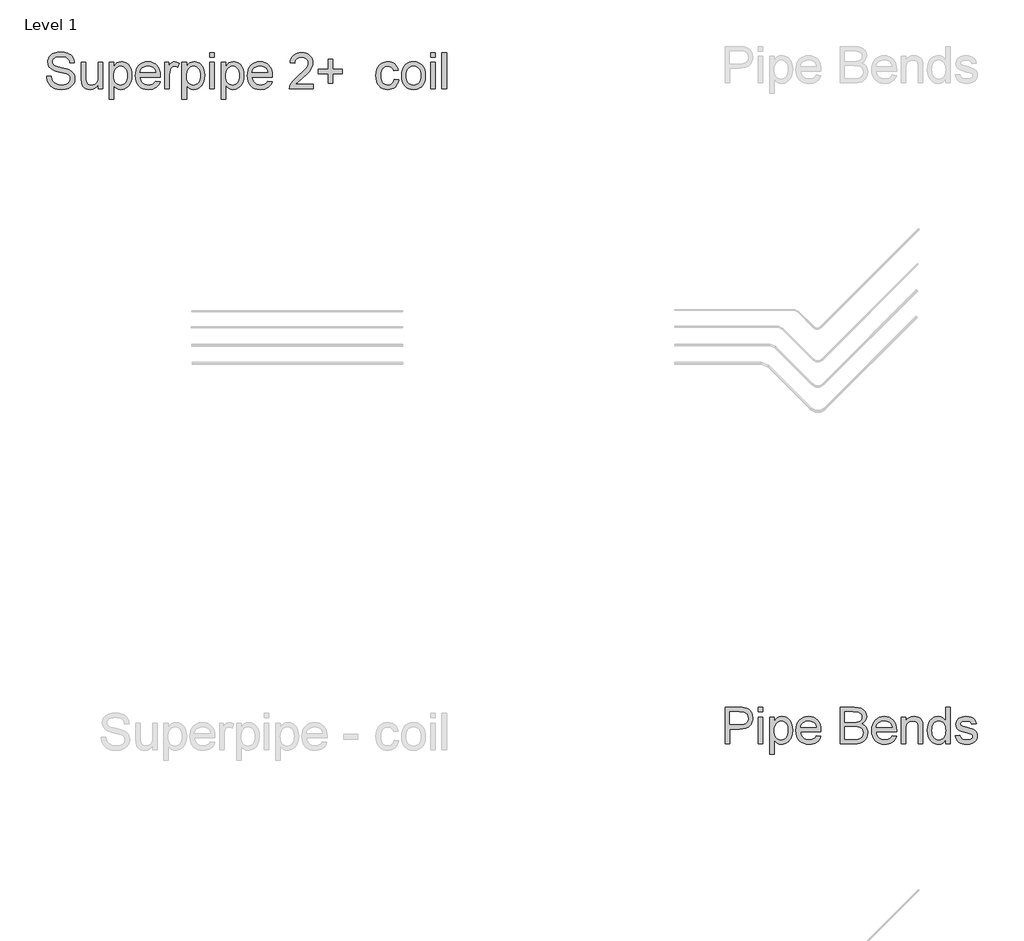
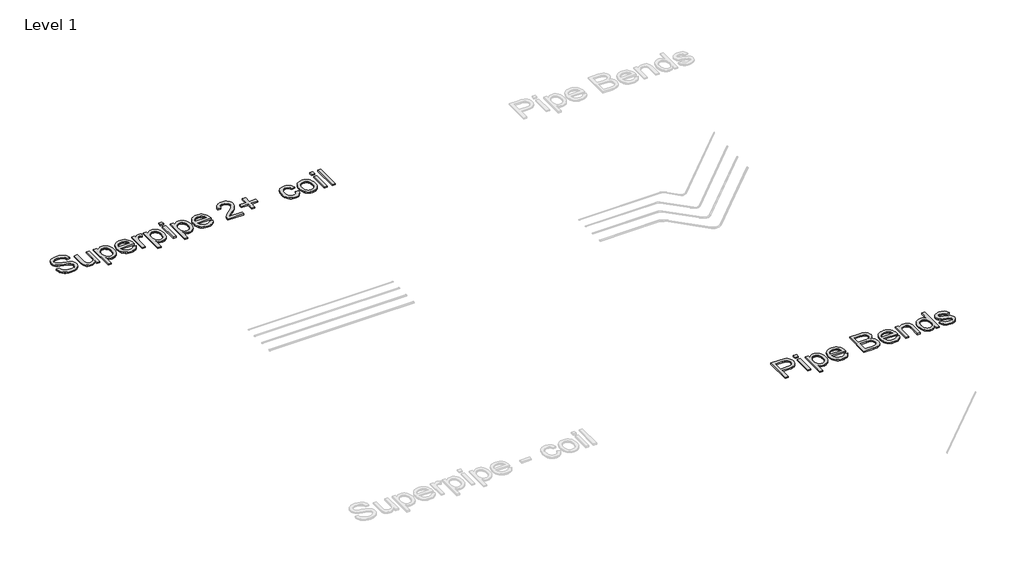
# One storey, part 10 of 57: 2 proxies.
"""IFC4 building model written with IfcOpenShell, lengths in millimetres."""

import ifcopenshell
import ifcopenshell.guid

model = None  # the IFC model being written
_history = None  # IfcOwnerHistory: only IFC2X3 demands one
_inside = {}  # id of a spatial element -> (the spatial element, [elements in it])
_under = {}  # id of a project, library or spatial element -> (it, [spatial elements below it])
_declared = {}  # id of a project -> (the project, [libraries it declares])
_typed = {}  # id of a type object -> (the type object, [elements of that type])
_made_of = {}  # id of a material, layer set ... -> (it, [elements and type objects made of it])


def new_model(schema):
    """Start an empty IFC model of exactly this schema.

    Asked for "IFC4X3", IfcOpenShell would pick the latest addendum, in which some entities
    have other attributes; the version numbers below select the first issue.
    IFC2X3 requires an IfcOwnerHistory on every rooted entity: one is made here for all.
    """
    global model, _history
    if schema == "IFC4X3":
        model = ifcopenshell.file(schema_version=(4, 3, 0, 0))
    else:
        model = ifcopenshell.file(schema=schema)
    _inside.clear()
    _under.clear()
    _declared.clear()
    _typed.clear()
    _made_of.clear()
    _history = None
    if model.schema == "IFC2X3":
        org = make("IfcOrganization", Name="unknown")
        user = make(
            "IfcPersonAndOrganization",
            ThePerson=make("IfcPerson", FamilyName="unknown"),
            TheOrganization=org,
        )
        app = make(
            "IfcApplication",
            ApplicationDeveloper=org,
            Version="unknown",
            ApplicationFullName="unknown",
            ApplicationIdentifier="unknown",
        )
        _history = make(
            "IfcOwnerHistory",
            OwningUser=user,
            OwningApplication=app,
            ChangeAction="ADDED",
            CreationDate=0,
        )
    return model


def make(cls, **values):
    """One entity of the class cls with the attributes given. An attribute that is None is left unset."""
    return model.create_entity(
        cls, **{name: value for name, value in values.items() if value is not None}
    )


def rooted(cls, **values):
    """An entity with a GlobalId (a new one), such as an element, a storey or a relation."""
    return make(cls, GlobalId=ifcopenshell.guid.new(), OwnerHistory=_history, **values)


def si_unit(unit_type, name, prefix=None):
    """IfcSIUnit, for example si_unit("LENGTHUNIT", "METRE", prefix="MILLI")."""
    return make("IfcSIUnit", UnitType=unit_type, Prefix=prefix, Name=name)


def assignment(units):
    """IfcUnitAssignment: the units of a project."""
    return None if units is None else make("IfcUnitAssignment", Units=units)


def point(xyz):
    """IfcCartesianPoint."""
    return None if xyz is None else make("IfcCartesianPoint", Coordinates=xyz)


def direction(xyz):
    """IfcDirection."""
    return None if xyz is None else make("IfcDirection", DirectionRatios=xyz)


def frame(location, z_axis=None, x_axis=None):
    """IfcAxis2Placement3D, a coordinate frame: its origin and axes. An axis left out is left unset."""
    return make(
        "IfcAxis2Placement3D",
        Location=point(location),
        Axis=direction(z_axis),
        RefDirection=direction(x_axis),
    )


def origin():
    """The frame at (0, 0, 0) with its axes left unset."""
    return frame((0.0, 0.0, 0.0))


def place(relative_to, where):
    """IfcLocalPlacement: puts the frame where relative to a parent placement (None: the world)."""
    return make(
        "IfcLocalPlacement", PlacementRelTo=relative_to, RelativePlacement=where
    )


def context(
    kind, dimensions, precision=None, world=None, true_north=None, identifier=None
):
    """IfcGeometricRepresentationContext, for example the 3D "Model" context."""
    return make(
        "IfcGeometricRepresentationContext",
        ContextIdentifier=identifier,
        ContextType=kind,
        CoordinateSpaceDimension=dimensions,
        Precision=precision,
        WorldCoordinateSystem=world,
        TrueNorth=true_north,
    )


def project(units=None, contexts=None):
    """IfcProject with its units and contexts."""
    return rooted(
        "IfcProject",
        Name="project",
        RepresentationContexts=contexts,
        UnitsInContext=assignment(units),
    )


def spatial(cls, under=None, at=None, **own):
    """A site, building, storey or space (cls), placed at a placement, below another one or the project."""
    s = rooted(cls, ObjectPlacement=at, **own)
    if under is not None:
        _under.setdefault(under.id(), (under, []))[1].append(s)
    return s


def polyline(points):
    """IfcPolyline through the points."""
    return make("IfcPolyline", Points=[point(p) for p in points])


def outline(outer, holes=None, kind="AREA"):
    """IfcArbitraryClosedProfileDef: a profile drawn as a closed curve; with holes, ...WithVoids."""
    if holes is None:
        return make("IfcArbitraryClosedProfileDef", ProfileType=kind, OuterCurve=outer)
    return make(
        "IfcArbitraryProfileDefWithVoids",
        ProfileType=kind,
        OuterCurve=outer,
        InnerCurves=holes,
    )


def extrude(swept, where, along, depth):
    """IfcExtrudedAreaSolid: the profile swept, set in the frame where, extruded along a direction by depth."""
    return make(
        "IfcExtrudedAreaSolid",
        SweptArea=swept,
        Position=where,
        ExtrudedDirection=direction(along),
        Depth=depth,
    )


def shape(context_of_items, identifier, shape_type, items):
    """IfcShapeRepresentation: the items that make up one representation, for example the "Body"."""
    return make(
        "IfcShapeRepresentation",
        ContextOfItems=context_of_items,
        RepresentationIdentifier=identifier,
        RepresentationType=shape_type,
        Items=items,
    )


def made_of(thing, what):
    """Note that an element or type object is made of a material, layer set ...; save() writes the relation."""
    if what is not None:
        _made_of.setdefault(what.id(), (what, []))[1].append(thing)
    return thing


def element(
    cls,
    number,
    at=None,
    inside=None,
    cuts=None,
    type_object=None,
    material=None,
    context=None,
    identifier="Body",
    shape_type=None,
    held_by="IfcProductDefinitionShape",
    body=None,
    shapes=None,
    **own,
):
    """One element of the class cls, such as IfcWall. Its Tag is "e" and its number.

    at: its placement. inside: the storey or other place that contains it. cuts: it is an
    opening in that element (IfcRelVoidsElement). A single representation is given by context,
    identifier, shape_type and body (its items); several are given by shapes. held_by: the class
    of the entity that holds the representations. save() writes the other relations.
    """
    e = rooted(cls, Tag="e%d" % number, ObjectPlacement=at, **own)
    if body is not None:
        shapes = [shape(context, identifier, shape_type, body)]
    if shapes is not None:
        e.Representation = make(held_by, Representations=shapes)
    if inside is not None:
        _inside.setdefault(inside.id(), (inside, []))[1].append(e)
    if cuts is not None:
        rooted(
            "IfcRelVoidsElement", RelatingBuildingElement=cuts, RelatedOpeningElement=e
        )
    if type_object is not None:
        _typed.setdefault(type_object.id(), (type_object, []))[1].append(e)
    return made_of(e, material)


def aggregate(whole, parts):
    """IfcRelAggregates: a whole, such as a stair, and the parts it consists of."""
    return rooted("IfcRelAggregates", RelatingObject=whole, RelatedObjects=parts)


def save(model, path):
    """Write the relations noted so far, then the file.

    IfcRelAggregates (storeys below a building ...), IfcRelContainedInSpatialStructure (elements
    in a storey), IfcRelDefinesByType, IfcRelAssociatesMaterial and IfcRelDeclares: one each for
    every whole, place, type object, material and project.
    """
    for whole, parts in _under.values():
        aggregate(whole, parts)
    for where, things in _inside.values():
        rooted(
            "IfcRelContainedInSpatialStructure",
            RelatedElements=things,
            RelatingStructure=where,
        )
    for kind, things in _typed.values():
        rooted("IfcRelDefinesByType", RelatedObjects=things, RelatingType=kind)
    for what, things in _made_of.values():
        rooted("IfcRelAssociatesMaterial", RelatedObjects=things, RelatingMaterial=what)
    for by, libraries in _declared.values():
        rooted("IfcRelDeclares", RelatingContext=by, RelatedDefinitions=libraries)
    model.write(path)


model = new_model("IFC4")

# Units and contexts
model_context = context("Model", 3, world=origin())
ifc_project = project(units=[si_unit("LENGTHUNIT", "METRE", prefix="MILLI")], contexts=[model_context])

# Site, building, storey
site = spatial("IfcSite", under=ifc_project)
building = spatial("IfcBuilding", under=site)
storey = spatial("IfcBuildingStorey", under=building, Name="Level 1", Elevation=27.3876384)

# Proxies
placement = place(None, origin())
element("IfcBuildingElementProxy", 1, Name="600mm Arial", ObjectType="600mm Arial", at=placement, inside=storey, context=model_context, shape_type="SweptSolid", body=[
    extrude(outline(polyline([(-16126.3023056, 25980.7797217), (-16050.9600729, 25980.7797217), (-16042.3148461, 25938.969933), (-16026.6798613, 25905.3639127), (-16002.289285, 25878.6924681), (-15967.3772836, 25857.6864061), (-15924.7029722, 25844.0563782), (-15877.0254656, 25839.5130356), (-15835.05013, 25842.9527322), (-15798.2987187, 25853.2718222), (-15768.5186711, 25869.6057828), (-15747.4574269, 25891.0900913), (-15734.931045, 25915.7565791), (-15730.7555843, 25941.6370774), (-15733.8825813, 25966.8553882), (-15743.2635722, 25988.6523964), (-15762.3198595, 26007.2488313), (-15794.4727459, 26022.865422), (-15904.1751569, 26051.633794), (-15976.1880574, 26070.6716873), (-16022.2652773, 26088.7898755), (-16059.7708467, 26114.136945), (-16086.3503209, 26144.8550916), (-16102.1876408, 26180.2821277), (-16107.4667474, 26219.7558658), (-16105.8342711, 26242.192069), (-16100.936842, 26263.8833111), (-16092.7744602, 26284.8295922), (-16081.3471257, 26305.0309123), (-16066.7835973, 26323.6641353), (-16049.2126335, 26339.9061254), (-16028.6342344, 26353.7568825), (-16005.0483999, 26365.2164067), (-15952.0366044, 26380.6122682), (-15893.3594262, 26385.744222), (-15829.7894174, 26380.3731449), (-15774.1656598, 26364.2599135), (-15749.8302658, 26352.2577634), (-15728.474716, 26337.7356216), (-15710.0990103, 26320.6934882), (-15694.7031488, 26301.1313631), (-15682.4066931, 26279.6194635), (-15673.3292049, 26256.7280063), (-15667.4706841, 26232.4569917), (-15664.8311308, 26206.8064196), (-15740.1733634, 26206.8064196), (-15745.2133468, 26230.847508), (-15754.0057264, 26251.7615994), (-15766.5505025, 26269.5486938), (-15782.8476749, 26284.2087914), (-15803.2007462, 26295.6683155), (-15827.9132193, 26303.8536899), (-15856.9850939, 26308.7649145), (-15890.4163702, 26310.4019894), (-15924.9145043, 26308.7833086), (-15954.3910492, 26303.9272663), (-15978.8460048, 26295.8338624), (-15998.2793712, 26284.5030969), (-16013.0866215, 26270.8822661), (-16023.6632289, 26255.9186659), (-16030.0091933, 26239.6122965), (-16032.1245148, 26221.9631578), (-16030.6253957, 26206.7788284), (-16026.1280383, 26193.0108447), (-16018.6324426, 26180.6592068), (-16008.1386087, 26169.7239145), (-15991.6207071, 26159.3680363), (-15965.6114501, 26148.9017935), (-15885.1188695, 26127.6382142), (-15802.051115, 26107.4414927), (-15751.7984345, 26089.8199451), (-15708.8482115, 26062.4863129), (-15692.242938, 26046.4190667), (-15678.884223, 26028.7515339), (-15668.6157168, 26009.5756849), (-15661.2810696, 25988.9834902), (-15655.4133517, 25943.5500638), (-15657.1010104, 25919.9826235), (-15662.1639863, 25897.1049619), (-15670.6022796, 25874.9170791), (-15682.4158902, 25853.418975), (-15697.3978844, 25833.4429827), (-15715.3413287, 25815.8214351), (-15736.2462231, 25800.5543323), (-15760.1125676, 25787.6416743), (-15786.2459848, 25777.3731681), (-15813.9520976, 25770.0385208), (-15874.0824097, 25764.170803), (-15912.6226472, 25765.7526955), (-15947.897932, 25770.4983733), (-15979.9082641, 25778.4078362), (-16008.6536435, 25789.4810842), (-16034.3088141, 25803.7365115), (-16057.04852, 25821.1925122), (-16076.872761, 25841.8490863), (-16093.7815372, 25865.7062336), (-16107.4023681, 25891.9914022), (-16117.3627731, 25919.9320397), (-16123.6627522, 25949.5281462), (-16126.3023056, 25980.7797217)])), frame((0.0, 0.0, 27.3876384), z_axis=(0.0, 0.0, 1.0), x_axis=(1.0, 0.0, 0.0)), (0.0, 0.0, 1.0), 30.0),
    extrude(outline(polyline([(-15269.2844096, 25773.588582), (-15269.2844096, 25849.6665786), (-15296.5444654, 25812.2621768), (-15328.2926816, 25785.5447469), (-15364.5290581, 25769.5142889), (-15405.253595, 25764.170803), (-15441.949824, 25767.9231993), (-15476.1076673, 25779.1803884), (-15504.7656747, 25796.1029601), (-15524.9623962, 25816.8515047), (-15538.555636, 25842.0514213), (-15547.4031979, 25872.3281096), (-15551.8177819, 25942.3728414), (-15551.8177819, 26216.2241986), (-15476.4755493, 26216.2241986), (-15476.4755493, 25977.8366658), (-15475.3351151, 25930.1591592), (-15471.9138125, 25901.0229052), (-15460.932535, 25875.3999242), (-15442.1153709, 25855.9205726), (-15416.7131192, 25843.6149198), (-15385.9765785, 25839.5130356), (-15353.4742042, 25843.7068903), (-15323.0687573, 25856.2884546), (-15297.9975993, 25876.0989), (-15281.4980918, 25901.9793984), (-15272.3378302, 25937.4248286), (-15269.2844096, 25985.9300697), (-15269.2844096, 26216.2241986), (-15193.942177, 26216.2241986), (-15193.942177, 25773.588582), (-15269.2844096, 25773.588582)])), frame((0.0, 0.0, 27.3876384), z_axis=(0.0, 0.0, 1.0), x_axis=(1.0, 0.0, 0.0)), (0.0, 0.0, 1.0), 30.0),
    extrude(outline(polyline([(-15090.3466071, 25604.0685587), (-15090.3466071, 26216.2241986), (-15015.0043745, 26216.2241986), (-15015.0043745, 26142.353494), (-14990.4298572, 26178.7922056), (-14962.912284, 26204.8198568), (-14930.832974, 26220.4364475), (-14892.5732465, 26225.6419777), (-14866.297275, 26223.8209618), (-14841.6215902, 26218.3579142), (-14818.5461921, 26209.2528348), (-14797.0710806, 26196.5057237), (-14777.6653053, 26180.4476746), (-14760.7979159, 26161.4097814), (-14746.4689121, 26139.3920439), (-14734.6782942, 26114.3944624), (-14718.8961566, 26058.8810693), (-14713.6354441, 25998.2909047), (-14719.5767383, 25933.8563732), (-14727.0033561, 25904.1912889), (-14737.400621, 25876.2276587), (-14750.6259787, 25850.6966482), (-14766.536875, 25828.3294229), (-14785.1333098, 25809.1259828), (-14806.4152833, 25793.0863278), (-14829.3389301, 25780.4357857), (-14852.8603852, 25771.3996842), (-14876.9796485, 25765.9780233), (-14901.69672, 25764.170803), (-14936.3328099, 25769.0084512), (-14967.2532916, 25783.5213959), (-14993.7224011, 25805.4287687), (-15015.0043745, 25832.4497013), (-15015.0043745, 25604.0685587), (-15090.3466071, 25604.0685587)]), holes=[polyline([(-15015.0043745, 25991.3747232), (-15012.967228, 25955.0647703), (-15006.8557883, 25923.8315889), (-14996.6700556, 25897.675179), (-14982.4100298, 25876.5955407), (-14965.2437362, 25860.3719447), (-14946.3392001, 25848.7836619), (-14925.6964217, 25841.8306922), (-14903.3154008, 25839.5130356), (-14880.6124832, 25841.9134656), (-14859.5926257, 25849.1147557), (-14840.2558283, 25861.1169057), (-14822.602091, 25877.9199159), (-14807.8914098, 25899.7629093), (-14797.3837803, 25926.8850094), (-14791.0792026, 25959.2862162), (-14788.9776767, 25996.9665295), (-14791.0286188, 26032.9637827), (-14797.1814452, 26064.1417818), (-14807.4361558, 26090.5005268), (-14821.7927507, 26112.0400176), (-14839.000431, 26128.7786484), (-14857.808398, 26140.7348132), (-14878.2166517, 26147.9085121), (-14900.225192, 26150.2997451), (-14922.1647545, 26147.7567608), (-14942.807533, 26140.1278079), (-14962.1535274, 26127.4128865), (-14980.2027378, 26109.6119964), (-14995.4284539, 26086.9642611), (-15006.3039653, 26059.7088038), (-15012.8292722, 26027.8456245), (-15015.0043745, 25991.3747232)])]), frame((0.0, 0.0, 27.3876384), z_axis=(0.0, 0.0, 1.0), x_axis=(1.0, 0.0, 0.0)), (0.0, 0.0, 1.0), 30.0),
    extrude(outline(polyline([(-14318.9716397, 25905.4374891), (-14245.100935, 25896.01971), (-14256.4271019, 25866.4328006), (-14271.7171974, 25840.3591642), (-14290.9712213, 25817.7988008), (-14314.1891737, 25798.7517105), (-14341.1319313, 25783.6225635), (-14371.5603709, 25772.8160299), (-14405.4744923, 25766.3321097), (-14442.8742956, 25764.170803), (-14489.6229002, 25767.9002067), (-14531.2763391, 25779.0884179), (-14567.8346123, 25797.7354365), (-14599.29772, 25823.8412626), (-14624.5988042, 25856.6793292), (-14642.6710072, 25895.5230693), (-14653.514329, 25940.3724831), (-14657.1287696, 25991.2275704), (-14653.4775408, 26043.8071046), (-14642.5238544, 26090.1510389), (-14624.2677104, 26130.2593734), (-14598.7091088, 26164.1321081), (-14567.3287746, 26191.0426761), (-14531.6074329, 26210.2645103), (-14491.5450836, 26221.7976109), (-14447.1417268, 26225.6419777), (-14404.1685112, 26221.8068079), (-14365.3063769, 26210.3012985), (-14330.555324, 26191.1254495), (-14299.9153523, 26164.2792609), (-14274.9039752, 26130.4801026), (-14257.0387058, 26090.4453445), (-14246.3195441, 26044.1749865), (-14242.7464903, 25991.6690288), (-14243.1879486, 25971.3619427), (-14581.786537, 25971.3619427), (-14577.4225368, 25941.2967866), (-14568.7451203, 25914.9656328), (-14555.7542873, 25892.3684812), (-14538.450038, 25873.5053319), (-14517.7888654, 25858.6337023), (-14494.7272628, 25848.0111097), (-14469.2652303, 25841.6375541), (-14441.4027676, 25839.5130356), (-14401.3036302, 25843.4493729), (-14367.532063, 25855.258385), (-14340.0880662, 25875.6758357), (-14318.9716397, 25905.4374891)]), holes=[polyline([(-14581.786537, 26046.7041753), (-14318.0887229, 26046.7041753), (-14328.2790541, 26086.5090071), (-14337.0438427, 26102.162386), (-14348.2550465, 26114.9830736), (-14368.8012559, 26130.4341174), (-14392.1801567, 26141.4705772), (-14418.3917488, 26148.0924531), (-14447.4360324, 26150.2997451), (-14473.9281345, 26148.5385101), (-14498.2221418, 26143.2548049), (-14520.3180541, 26134.4486296), (-14540.2158716, 26122.1199843), (-14556.9131156, 26106.8390859), (-14569.4073079, 26089.1761516), (-14577.6984483, 26069.1311814), (-14581.786537, 26046.7041753)])]), frame((0.0, 0.0, 27.3876384), z_axis=(0.0, 0.0, 1.0), x_axis=(1.0, 0.0, 0.0)), (0.0, 0.0, 1.0), 30.0),
    extrude(outline(polyline([(-14167.4042576, 25773.588582), (-14167.4042576, 26216.2241986), (-14101.4798041, 26216.2241986), (-14101.4798041, 26150.7412035), (-14077.126016, 26188.7066254), (-14054.6852143, 26211.0738507), (-14032.1708362, 26221.999946), (-14007.5963189, 26225.6419777), (-13970.0723554, 26219.8294422), (-13931.9597807, 26202.3918356), (-13957.1229092, 26134.8487013), (-13983.6104128, 26146.4369842), (-14010.0979165, 26150.2997451), (-14032.5939005, 26146.584137), (-14052.6986515, 26135.4373125), (-14068.9406416, 26117.7054003), (-14079.8483428, 26094.234529), (-14089.0086045, 26052.1488288), (-14092.062025, 26006.2371558), (-14092.062025, 25773.588582), (-14167.4042576, 25773.588582)])), frame((0.0, 0.0, 27.3876384), z_axis=(0.0, 0.0, 1.0), x_axis=(1.0, 0.0, 0.0)), (0.0, 0.0, 1.0), 30.0),
    extrude(outline(polyline([(-13884.8708853, 25604.0685587), (-13884.8708853, 26216.2241986), (-13809.5286527, 26216.2241986), (-13809.5286527, 26142.353494), (-13784.9541355, 26178.7922056), (-13757.4365622, 26204.8198568), (-13725.3572522, 26220.4364475), (-13687.0975247, 26225.6419777), (-13660.8215532, 26223.8209618), (-13636.1458684, 26218.3579142), (-13613.0704703, 26209.2528348), (-13591.5953588, 26196.5057237), (-13572.1895835, 26180.4476746), (-13555.3221941, 26161.4097814), (-13540.9931904, 26139.3920439), (-13529.2025724, 26114.3944624), (-13513.4204348, 26058.8810693), (-13508.1597223, 25998.2909047), (-13514.1010165, 25933.8563732), (-13521.5276343, 25904.1912889), (-13531.9248992, 25876.2276587), (-13545.1502569, 25850.6966482), (-13561.0611532, 25828.3294229), (-13579.657588, 25809.1259828), (-13600.9395615, 25793.0863278), (-13623.8632083, 25780.4357857), (-13647.3846634, 25771.3996842), (-13671.5039267, 25765.9780233), (-13696.2209982, 25764.170803), (-13730.8570881, 25769.0084512), (-13761.7775698, 25783.5213959), (-13788.2466793, 25805.4287687), (-13809.5286527, 25832.4497013), (-13809.5286527, 25604.0685587), (-13884.8708853, 25604.0685587)]), holes=[polyline([(-13809.5286527, 25991.3747232), (-13807.4915062, 25955.0647703), (-13801.3800665, 25923.8315889), (-13791.1943338, 25897.675179), (-13776.934308, 25876.5955407), (-13759.7680144, 25860.3719447), (-13740.8634783, 25848.7836619), (-13720.2206999, 25841.8306922), (-13697.839679, 25839.5130356), (-13675.1367614, 25841.9134656), (-13654.1169039, 25849.1147557), (-13634.7801065, 25861.1169057), (-13617.1263693, 25877.9199159), (-13602.415688, 25899.7629093), (-13591.9080585, 25926.8850094), (-13585.6034808, 25959.2862162), (-13583.5019549, 25996.9665295), (-13585.552897, 26032.9637827), (-13591.7057234, 26064.1417818), (-13601.960434, 26090.5005268), (-13616.3170289, 26112.0400176), (-13633.5247092, 26128.7786484), (-13652.3326762, 26140.7348132), (-13672.7409299, 26147.9085121), (-13694.7494702, 26150.2997451), (-13716.6890327, 26147.7567608), (-13737.3318112, 26140.1278079), (-13756.6778056, 26127.4128865), (-13774.727016, 26109.6119964), (-13789.9527321, 26086.9642611), (-13800.8282435, 26059.7088038), (-13807.3535504, 26027.8456245), (-13809.5286527, 25991.3747232)])]), frame((0.0, 0.0, 27.3876384), z_axis=(0.0, 0.0, 1.0), x_axis=(1.0, 0.0, 0.0)), (0.0, 0.0, 1.0), 30.0),
    extrude(outline(polyline([(-13423.3997106, 26300.9842103), (-13423.3997106, 26376.3264429), (-13348.057478, 26376.3264429), (-13348.057478, 26300.9842103), (-13423.3997106, 26300.9842103)])), frame((0.0, 0.0, 27.3876384), z_axis=(0.0, 0.0, 1.0), x_axis=(1.0, 0.0, 0.0)), (0.0, 0.0, 1.0), 30.0),
    extrude(outline(polyline([(-13423.3997106, 25773.588582), (-13423.3997106, 26216.2241986), (-13348.057478, 26216.2241986), (-13348.057478, 25773.588582), (-13423.3997106, 25773.588582)])), frame((0.0, 0.0, 27.3876384), z_axis=(0.0, 0.0, 1.0), x_axis=(1.0, 0.0, 0.0)), (0.0, 0.0, 1.0), 30.0),
    extrude(outline(polyline([(-13235.0441291, 25604.0685587), (-13235.0441291, 26216.2241986), (-13159.7018965, 26216.2241986), (-13159.7018965, 26142.353494), (-13135.1273792, 26178.7922056), (-13107.6098059, 26204.8198568), (-13075.530496, 26220.4364475), (-13037.2707685, 26225.6419777), (-13010.994797, 26223.8209618), (-12986.3191121, 26218.3579142), (-12963.243714, 26209.2528348), (-12941.7686025, 26196.5057237), (-12922.3628273, 26180.4476746), (-12905.4954378, 26161.4097814), (-12891.1664341, 26139.3920439), (-12879.3758161, 26114.3944624), (-12863.5936785, 26058.8810693), (-12858.332966, 25998.2909047), (-12864.2742602, 25933.8563732), (-12871.700878, 25904.1912889), (-12882.0981429, 25876.2276587), (-12895.3235006, 25850.6966482), (-12911.2343969, 25828.3294229), (-12929.8308318, 25809.1259828), (-12951.1128052, 25793.0863278), (-12974.036452, 25780.4357857), (-12997.5579071, 25771.3996842), (-13021.6771704, 25765.9780233), (-13046.3942419, 25764.170803), (-13081.0303318, 25769.0084512), (-13111.9508135, 25783.5213959), (-13138.419923, 25805.4287687), (-13159.7018965, 25832.4497013), (-13159.7018965, 25604.0685587), (-13235.0441291, 25604.0685587)]), holes=[polyline([(-13159.7018965, 25991.3747232), (-13157.6647499, 25955.0647703), (-13151.5533103, 25923.8315889), (-13141.3675775, 25897.675179), (-13127.1075517, 25876.5955407), (-13109.9412581, 25860.3719447), (-13091.0367221, 25848.7836619), (-13070.3939436, 25841.8306922), (-13048.0129227, 25839.5130356), (-13025.3100051, 25841.9134656), (-13004.2901476, 25849.1147557), (-12984.9533502, 25861.1169057), (-12967.299613, 25877.9199159), (-12952.5889317, 25899.7629093), (-12942.0813022, 25926.8850094), (-12935.7767245, 25959.2862162), (-12933.6751986, 25996.9665295), (-12935.7261407, 26032.9637827), (-12941.8789671, 26064.1417818), (-12952.1336777, 26090.5005268), (-12966.4902726, 26112.0400176), (-12983.6979529, 26128.7786484), (-13002.5059199, 26140.7348132), (-13022.9141736, 26147.9085121), (-13044.922714, 26150.2997451), (-13066.8622764, 26147.7567608), (-13087.5050549, 26140.1278079), (-13106.8510493, 26127.4128865), (-13124.9002597, 26109.6119964), (-13140.1259758, 26086.9642611), (-13151.0014873, 26059.7088038), (-13157.5267942, 26027.8456245), (-13159.7018965, 25991.3747232)])]), frame((0.0, 0.0, 27.3876384), z_axis=(0.0, 0.0, 1.0), x_axis=(1.0, 0.0, 0.0)), (0.0, 0.0, 1.0), 30.0),
    extrude(outline(polyline([(-12463.6691616, 25905.4374891), (-12389.7984569, 25896.01971), (-12401.1246239, 25866.4328006), (-12416.4147193, 25840.3591642), (-12435.6687432, 25817.7988008), (-12458.8866956, 25798.7517105), (-12485.8294533, 25783.6225635), (-12516.2578928, 25772.8160299), (-12550.1720142, 25766.3321097), (-12587.5718176, 25764.170803), (-12634.3204221, 25767.9002067), (-12675.973861, 25779.0884179), (-12712.5321343, 25797.7354365), (-12743.9952419, 25823.8412626), (-12769.2963261, 25856.6793292), (-12787.3685291, 25895.5230693), (-12798.2118509, 25940.3724831), (-12801.8262915, 25991.2275704), (-12798.1750627, 26043.8071046), (-12787.2213763, 26090.1510389), (-12768.9652323, 26130.2593734), (-12743.4066307, 26164.1321081), (-12712.0262965, 26191.0426761), (-12676.3049548, 26210.2645103), (-12636.2426055, 26221.7976109), (-12591.8392487, 26225.6419777), (-12548.8660331, 26221.8068079), (-12510.0038989, 26210.3012985), (-12475.2528459, 26191.1254495), (-12444.6128742, 26164.2792609), (-12419.6014971, 26130.4801026), (-12401.7362277, 26090.4453445), (-12391.0170661, 26044.1749865), (-12387.4440122, 25991.6690288), (-12387.8854706, 25971.3619427), (-12726.4840589, 25971.3619427), (-12722.1200588, 25941.2967866), (-12713.4426422, 25914.9656328), (-12700.4518092, 25892.3684812), (-12683.1475599, 25873.5053319), (-12662.4863873, 25858.6337023), (-12639.4247848, 25848.0111097), (-12613.9627522, 25841.6375541), (-12586.1002896, 25839.5130356), (-12546.0011521, 25843.4493729), (-12512.2295849, 25855.258385), (-12484.7855881, 25875.6758357), (-12463.6691616, 25905.4374891)]), holes=[polyline([(-12726.4840589, 26046.7041753), (-12462.7862448, 26046.7041753), (-12472.9765761, 26086.5090071), (-12481.7413646, 26102.162386), (-12492.9525684, 26114.9830736), (-12513.4987778, 26130.4341174), (-12536.8776786, 26141.4705772), (-12563.0892708, 26148.0924531), (-12592.1335543, 26150.2997451), (-12618.6256565, 26148.5385101), (-12642.9196637, 26143.2548049), (-12665.0155761, 26134.4486296), (-12684.9133935, 26122.1199843), (-12701.6106375, 26106.8390859), (-12714.1048298, 26089.1761516), (-12722.3959703, 26069.1311814), (-12726.4840589, 26046.7041753)])]), frame((0.0, 0.0, 27.3876384), z_axis=(0.0, 0.0, 1.0), x_axis=(1.0, 0.0, 0.0)), (0.0, 0.0, 1.0), 30.0),
    extrude(outline(polyline([(-11709.3639187, 25848.9308147), (-11709.3639187, 25773.588582), (-12104.9106399, 25773.588582), (-12103.2551709, 25800.1128739), (-12096.817236, 25825.5335198), (-12078.2391952, 25866.1292979), (-12051.0527158, 25905.5110655), (-12011.7261305, 25946.7322431), (-11956.7277722, 25992.8462512), (-11875.4258513, 26065.0614868), (-11826.6446987, 26118.3675879), (-11812.4168626, 26140.146202), (-11802.2541224, 26161.6305106), (-11796.1564784, 26182.8205135), (-11794.1239304, 26203.7162108), (-11796.0415153, 26223.3749049), (-11801.79427, 26241.4425094), (-11811.3821945, 26257.9190243), (-11824.8052888, 26272.8044495), (-11841.3185918, 26285.1330949), (-11860.1771426, 26293.9392701), (-11881.3809411, 26299.2229753), (-11904.9299873, 26300.9842103), (-11929.7390294, 26299.264362), (-11951.9269122, 26294.104817), (-11971.4936358, 26285.5055754), (-11988.4392002, 26273.4666371), (-12002.1474031, 26258.3926723), (-12012.002042, 26240.6883513), (-12018.003117, 26220.353674), (-12020.1506282, 26197.3886405), (-12095.4928608, 26206.8064196), (-12089.0135392, 26245.7007435), (-12077.2275197, 26279.6838428), (-12060.1348025, 26308.7557175), (-12037.7353876, 26332.9163675), (-12010.5443096, 26351.9082755), (-11979.0766034, 26365.4739241), (-11943.3322691, 26373.6133132), (-11903.3113065, 26376.3264429), (-11862.931659, 26373.3098106), (-11826.9941866, 26364.2599135), (-11795.4988893, 26349.1767517), (-11768.4457671, 26328.0603252), (-11746.7177368, 26302.4741324), (-11731.1977151, 26273.9816719), (-11721.8857021, 26242.5829436), (-11718.7816977, 26208.2779475), (-11722.1294239, 26172.2439061), (-11732.1726024, 26136.8352641), (-11749.996485, 26100.8196168), (-11776.6863238, 26062.9645595), (-11819.2318765, 26017.7702563), (-11884.6229012, 25959.7368716), (-11971.2958992, 25887.2641186), (-12005.2881956, 25848.9308147), (-11709.3639187, 25848.9308147)])), frame((0.0, 0.0, 27.3876384), z_axis=(0.0, 0.0, 1.0), x_axis=(1.0, 0.0, 0.0)), (0.0, 0.0, 1.0), 30.0),
    extrude(outline(polyline([(-11464.5016627, 25867.7663728), (-11464.5016627, 26027.8686171), (-11624.603907, 26027.8686171), (-11624.603907, 26103.2108497), (-11464.5016627, 26103.2108497), (-11464.5016627, 26263.313094), (-11389.1594301, 26263.313094), (-11389.1594301, 26103.2108497), (-11229.0571858, 26103.2108497), (-11229.0571858, 26027.8686171), (-11389.1594301, 26027.8686171), (-11389.1594301, 25867.7663728), (-11464.5016627, 25867.7663728)])), frame((0.0, 0.0, 27.3876384), z_axis=(0.0, 0.0, 1.0), x_axis=(1.0, 0.0, 0.0)), (0.0, 0.0, 1.0), 30.0),
    extrude(outline(polyline([(-10372.0392898, 25933.6908263), (-10296.6970572, 25924.2730473), (-10304.8916286, 25888.721851), (-10317.7031191, 25857.2633418), (-10335.1315286, 25829.8975199), (-10357.1768572, 25806.6243852), (-10382.9102028, 25788.050943), (-10411.4026633, 25774.7841985), (-10442.6542388, 25766.8241519), (-10476.6649292, 25764.170803), (-10518.9207749, 25767.8726155), (-10556.8080219, 25778.9780533), (-10590.3266702, 25797.4871162), (-10619.4767198, 25823.3998042), (-10643.0717512, 25856.2286737), (-10659.9253451, 25895.4862811), (-10670.0375015, 25941.1726264), (-10673.4082202, 25993.2877096), (-10667.650867, 26060.3342032), (-10660.4541755, 26090.5051253), (-10650.3788074, 26118.4411643), (-10637.3557847, 26143.5813002), (-10621.3161297, 26165.3645128), (-10602.2598424, 26183.7908022), (-10580.1869227, 26198.8601685), (-10556.0952505, 26210.57721), (-10530.9827058, 26218.9465254), (-10504.8492886, 26223.9681146), (-10477.6949988, 26225.6419777), (-10444.268321, 26223.3427152), (-10414.0330195, 26216.4449278), (-10386.9890944, 26204.9486155), (-10363.1365455, 26188.8537782), (-10342.8800432, 26168.528298), (-10326.6242575, 26144.3400568), (-10314.3691885, 26116.2890547), (-10306.1148363, 26084.3752916), (-10381.4570689, 26074.9575125), (-10395.123885, 26107.8277688), (-10416.4058584, 26131.3906106), (-10444.1257668, 26145.5724615), (-10477.1063876, 26150.2997451), (-10502.706376, 26147.9728915), (-10525.7955697, 26140.9923306), (-10546.3739688, 26129.3580625), (-10564.4415733, 26113.0700872), (-10579.1522546, 26091.7513256), (-10589.659884, 26065.0246986), (-10595.9644617, 26032.8902063), (-10598.0659876, 25995.3478487), (-10596.010447, 25957.2398726), (-10589.843825, 25924.7328998), (-10579.5661218, 25897.8269303), (-10565.1773373, 25876.5219643), (-10547.4684177, 25860.330558), (-10527.2303095, 25848.7652678), (-10504.4630125, 25841.8260936), (-10479.1665268, 25839.5130356), (-10440.1526412, 25845.2887829), (-10423.2806532, 25852.5084671), (-10408.1653017, 25862.6160249), (-10395.2296511, 25875.721821), (-10384.8967655, 25891.9362199), (-10377.1666451, 25911.2592217), (-10372.0392898, 25933.6908263)])), frame((0.0, 0.0, 27.3876384), z_axis=(0.0, 0.0, 1.0), x_axis=(1.0, 0.0, 0.0)), (0.0, 0.0, 1.0), 30.0),
    extrude(outline(polyline([(-10249.6081618, 25994.9063903), (-10245.5338687, 26052.2316022), (-10233.3109894, 26101.6289571), (-10212.9395239, 26143.0984551), (-10184.4194723, 26176.640096), (-10155.7062825, 26198.0784192), (-10124.0132487, 26213.3915073), (-10089.3403706, 26222.5793601), (-10051.6876484, 26225.6419777), (-10010.1215815, 26221.912574), (-9972.5378371, 26210.7243628), (-9938.9364154, 26192.0773442), (-9909.3173163, 26165.9715181), (-9885.1428707, 26133.2898014), (-9867.8754095, 26094.9151107), (-9857.5149328, 26050.8474462), (-9854.0614406, 26001.0868079), (-9855.5881509, 25960.7577441), (-9860.1682817, 25924.9720231), (-9867.8018331, 25893.7296446), (-9878.4888051, 25867.0306088), (-9892.0958404, 25843.9690062), (-9908.4895818, 25823.6389275), (-9927.6700293, 25806.0403725), (-9949.6371829, 25791.1733414), (-9973.535717, 25779.3597308), (-9998.510306, 25770.9214376), (-10024.5609498, 25765.8584616), (-10051.6876484, 25764.170803), (-10093.8607206, 25767.8864111), (-10131.7939528, 25779.0332356), (-10165.4873451, 25797.6112763), (-10194.9408973, 25823.6205334), (-10218.8578255, 25856.6195484), (-10235.9413457, 25896.1668628), (-10246.1914578, 25942.2624768), (-10249.6081618, 25994.9063903)]), holes=[polyline([(-10174.2659292, 25995.0535431), (-10172.0862284, 25958.5090654), (-10165.5471259, 25926.8666153), (-10154.6486218, 25900.1261928), (-10139.390716, 25878.2877979), (-10120.8310694, 25861.3238394), (-10100.0273426, 25849.2067262), (-10076.9795356, 25841.9364582), (-10051.6876484, 25839.5130356), (-10026.5245199, 25841.9502538), (-10003.5686834, 25849.2619085), (-9982.8201389, 25861.4479995), (-9964.2788863, 25878.5085271), (-9949.0209806, 25900.5630527), (-9938.1224765, 25927.731138), (-9931.583374, 25960.0127831), (-9929.4036732, 25997.4079879), (-9931.5971696, 26032.7936373), (-9938.1776588, 26063.6083529), (-9949.1451408, 26089.8521348), (-9964.4996155, 26111.5249828), (-9983.109846, 26128.4889413), (-10003.8445949, 26140.6060545), (-10026.7038624, 26147.8763225), (-10051.6876484, 26150.2997451), (-10076.9795356, 26147.8855195), (-10100.0273426, 26140.6428427), (-10120.8310694, 26128.5717148), (-10139.390716, 26111.6721356), (-10154.6486218, 26089.89812), (-10165.5471259, 26063.2036827), (-10172.0862284, 26031.5888238), (-10174.2659292, 25995.0535431)])]), frame((0.0, 0.0, 27.3876384), z_axis=(0.0, 0.0, 1.0), x_axis=(1.0, 0.0, 0.0)), (0.0, 0.0, 1.0), 30.0),
    extrude(outline(polyline([(-9769.3014289, 25773.588582), (-9769.3014289, 26216.2241986), (-9693.9591963, 26216.2241986), (-9693.9591963, 25773.588582), (-9769.3014289, 25773.588582)])), frame((0.0, 0.0, 27.3876384), z_axis=(0.0, 0.0, 1.0), x_axis=(1.0, 0.0, 0.0)), (0.0, 0.0, 1.0), 30.0),
    extrude(outline(polyline([(-9769.3014289, 26300.9842103), (-9769.3014289, 26376.3264429), (-9693.9591963, 26376.3264429), (-9693.9591963, 26300.9842103), (-9769.3014289, 26300.9842103)])), frame((0.0, 0.0, 27.3876384), z_axis=(0.0, 0.0, 1.0), x_axis=(1.0, 0.0, 0.0)), (0.0, 0.0, 1.0), 30.0),
    extrude(outline(polyline([(-9580.9458474, 25773.588582), (-9580.9458474, 26376.3264429), (-9505.6036148, 26376.3264429), (-9505.6036148, 25773.588582), (-9580.9458474, 25773.588582)])), frame((0.0, 0.0, 27.3876384), z_axis=(0.0, 0.0, 1.0), x_axis=(1.0, 0.0, 0.0)), (0.0, 0.0, 1.0), 30.0),
])
element("IfcBuildingElementProxy", 2, Name="600mm Arial", ObjectType="600mm Arial", at=placement, inside=storey, context=model_context, shape_type="SweptSolid", body=[
    extrude(outline(polyline([(-4888.7384012, 14934.3799222), (-4888.7384012, 15537.1177831), (-4665.3604538, 15537.1177831), (-4613.3419397, 15535.6830433), (-4575.3029414, 15531.378824), (-4535.1486216, 15520.6550638), (-4502.0944243, 15503.1990631), (-4475.478162, 15478.2198757), (-4454.6376469, 15444.9265551), (-4441.1731659, 15405.6551521), (-4436.6850056, 15362.7417174), (-4439.7154335, 15325.7419857), (-4448.8067173, 15291.7037041), (-4463.958857, 15260.6268726), (-4485.1718525, 15232.5114911), (-4514.294311, 15209.2061667), (-4553.1748393, 15192.5595064), (-4601.8134376, 15182.5715102), (-4660.2101058, 15179.2421782), (-4813.3961686, 15179.2421782), (-4813.3961686, 14934.3799222), (-4888.7384012, 14934.3799222)]), holes=[polyline([(-4813.3961686, 15254.5844108), (-4655.7955219, 15254.5844108), (-4619.5591454, 15256.3134562), (-4588.9881516, 15261.5005923), (-4564.0825405, 15270.1458192), (-4544.8423122, 15282.2491368), (-4530.4857173, 15297.4886485), (-4520.2310067, 15315.5424574), (-4514.0781803, 15336.4105636), (-4512.0272382, 15360.092967), (-4516.8648864, 15393.9381106), (-4531.3778311, 15422.4857534), (-4553.7634505, 15443.9700619), (-4582.2191229, 15456.6252025), (-4611.2818005, 15460.4879635), (-4657.5613555, 15461.7755505), (-4813.3961686, 15461.7755505), (-4813.3961686, 15254.5844108)])]), frame((0.0, 0.0, 27.3876384), z_axis=(0.0, 0.0, 1.0), x_axis=(1.0, 0.0, 0.0)), (0.0, 0.0, 1.0), 30.0),
    extrude(outline(polyline([(-4342.5072148, 14934.3799222), (-4342.5072148, 15377.0155388), (-4267.1649822, 15377.0155388), (-4267.1649822, 14934.3799222), (-4342.5072148, 14934.3799222)])), frame((0.0, 0.0, 27.3876384), z_axis=(0.0, 0.0, 1.0), x_axis=(1.0, 0.0, 0.0)), (0.0, 0.0, 1.0), 30.0),
    extrude(outline(polyline([(-4342.5072148, 15461.7755505), (-4342.5072148, 15537.1177831), (-4267.1649822, 15537.1177831), (-4267.1649822, 15461.7755505), (-4342.5072148, 15461.7755505)])), frame((0.0, 0.0, 27.3876384), z_axis=(0.0, 0.0, 1.0), x_axis=(1.0, 0.0, 0.0)), (0.0, 0.0, 1.0), 30.0),
    extrude(outline(polyline([(-4154.1516333, 14764.8598988), (-4154.1516333, 15377.0155388), (-4078.8094007, 15377.0155388), (-4078.8094007, 15303.1448342), (-4054.2348834, 15339.5835458), (-4026.7173101, 15365.6111969), (-3994.6380002, 15381.2277876), (-3956.3782727, 15386.4333179), (-3930.1023012, 15384.612302), (-3905.4266163, 15379.1492544), (-3882.3512182, 15370.044175), (-3860.8761067, 15357.2970638), (-3841.4703315, 15341.2390148), (-3824.602942, 15322.2011215), (-3810.2739383, 15300.1833841), (-3798.4833203, 15275.1858025), (-3782.7011827, 15219.6724094), (-3777.4404702, 15159.0822448), (-3783.3817644, 15094.6477134), (-3790.8083822, 15064.982629), (-3801.2056471, 15037.0189988), (-3814.4310048, 15011.4879884), (-3830.3419011, 14989.1207631), (-3848.938336, 14969.9173229), (-3870.2203094, 14953.8776679), (-3893.1439562, 14941.2271258), (-3916.6654113, 14932.1910243), (-3940.7846746, 14926.7693634), (-3965.5017461, 14924.9621431), (-4000.137836, 14929.7997914), (-4031.0583177, 14944.3127361), (-4057.5274272, 14966.2201089), (-4078.8094007, 14993.2410414), (-4078.8094007, 14764.8598988), (-4154.1516333, 14764.8598988)]), holes=[polyline([(-4078.8094007, 15152.1660633), (-4076.7722541, 15115.8561104), (-4070.6608145, 15084.622929), (-4060.4750817, 15058.4665192), (-4046.2150559, 15037.3868808), (-4029.0487623, 15021.1632849), (-4010.1442263, 15009.575002), (-3989.5014478, 15002.6220323), (-3967.1204269, 15000.3043757), (-3944.4175093, 15002.7048057), (-3923.3976518, 15009.9060958), (-3904.0608544, 15021.9082459), (-3886.4071172, 15038.711256), (-3871.6964359, 15060.5542495), (-3861.1888064, 15087.6763496), (-3854.8842287, 15120.0775563), (-3852.7827028, 15157.7578697), (-3854.8336449, 15193.7551229), (-3860.9864713, 15224.933122), (-3871.2411819, 15251.2918669), (-3885.5977768, 15272.8313578), (-3902.8054571, 15289.5699885), (-3921.6134241, 15301.5261534), (-3942.0216778, 15308.6998523), (-3964.0302182, 15311.0910853), (-3985.9697807, 15308.548101), (-4006.6125591, 15300.9191481), (-4025.9585535, 15288.2042266), (-4044.0077639, 15270.4033366), (-4059.23348, 15247.7556013), (-4070.1089915, 15220.5001439), (-4076.6342984, 15188.6369646), (-4078.8094007, 15152.1660633)])]), frame((0.0, 0.0, 27.3876384), z_axis=(0.0, 0.0, 1.0), x_axis=(1.0, 0.0, 0.0)), (0.0, 0.0, 1.0), 30.0),
    extrude(outline(polyline([(-3382.7766658, 15066.2288293), (-3308.9059612, 15056.8110502), (-3320.2321281, 15027.2241407), (-3335.5222235, 15001.1505043), (-3354.7762474, 14978.590141), (-3377.9941999, 14959.5430507), (-3404.9369575, 14944.4139036), (-3435.365397, 14933.60737), (-3469.2795184, 14927.1234498), (-3506.6793218, 14924.9621431), (-3553.4279263, 14928.6915468), (-3595.0813652, 14939.879758), (-3631.6396385, 14958.5267766), (-3663.1027461, 14984.6326027), (-3688.4038303, 15017.4706693), (-3706.4760333, 15056.3144095), (-3717.3193552, 15101.1638232), (-3720.9337958, 15152.0189105), (-3717.282567, 15204.5984447), (-3706.3288805, 15250.942379), (-3688.0727365, 15291.0507136), (-3662.5141349, 15324.9234483), (-3631.1338007, 15351.8340162), (-3595.412459, 15371.0558505), (-3555.3501097, 15382.588951), (-3510.9467529, 15386.4333179), (-3467.9735373, 15382.5981481), (-3429.1114031, 15371.0926387), (-3394.3603501, 15351.9167897), (-3363.7203784, 15325.0706011), (-3338.7090013, 15291.2714428), (-3320.8437319, 15251.2366846), (-3310.1245703, 15204.9663267), (-3306.5515164, 15152.4603689), (-3306.9929748, 15132.1532828), (-3645.5915631, 15132.1532828), (-3641.227563, 15102.0881267), (-3632.5501464, 15075.7569729), (-3619.5593135, 15053.1598214), (-3602.2550641, 15034.2966721), (-3581.5938916, 15019.4250424), (-3558.532289, 15008.8024498), (-3533.0702564, 15002.4288942), (-3505.2077938, 15000.3043757), (-3465.1086563, 15004.2407131), (-3431.3370892, 15016.0497251), (-3403.8930923, 15036.4671759), (-3382.7766658, 15066.2288293)]), holes=[polyline([(-3645.5915631, 15207.4955154), (-3381.893749, 15207.4955154), (-3392.0840803, 15247.3003473), (-3400.8488688, 15262.9537262), (-3412.0600726, 15275.7744137), (-3432.606282, 15291.2254575), (-3455.9851828, 15302.2619174), (-3482.196775, 15308.8837933), (-3511.2410585, 15311.0910853), (-3537.7331607, 15309.3298502), (-3562.0271679, 15304.046145), (-3584.1230803, 15295.2399698), (-3604.0208977, 15282.9113244), (-3620.7181417, 15267.630426), (-3633.212334, 15249.9674918), (-3641.5034745, 15229.9225215), (-3645.5915631, 15207.4955154)])]), frame((0.0, 0.0, 27.3876384), z_axis=(0.0, 0.0, 1.0), x_axis=(1.0, 0.0, 0.0)), (0.0, 0.0, 1.0), 30.0),
    extrude(outline(polyline([(-2986.3470278, 14934.3799222), (-2986.3470278, 15537.1177831), (-2756.3472044, 15537.1177831), (-2693.0898953, 15532.684805), (-2643.7017375, 15519.3858709), (-2623.6245776, 15509.3288969), (-2605.8466802, 15496.8898869), (-2590.3680452, 15482.068841), (-2577.1886728, 15464.8657592), (-2559.1440609, 15427.1946429), (-2553.1291903, 15387.757693), (-2558.1875677, 15351.4661342), (-2573.3627, 15317.3450792), (-2598.7649518, 15287.4914553), (-2634.5046876, 15264.0021899), (-2611.7649818, 15254.3084993), (-2591.8119821, 15241.708541), (-2574.6456885, 15226.2023149), (-2560.266101, 15207.789821), (-2548.9031458, 15187.0320794), (-2540.7867493, 15164.4901102), (-2535.9169114, 15140.1639132), (-2534.2936321, 15114.0534886), (-2538.7266102, 15072.0229707), (-2552.0255443, 15033.0458733), (-2571.8727779, 14999.8997055), (-2595.9506545, 14975.3619765), (-2625.4363964, 14957.5932761), (-2661.507226, 14944.7541945), (-2705.3403658, 14936.9734903), (-2758.113038, 14934.3799222), (-2986.3470278, 14934.3799222)]), holes=[polyline([(-2911.0047952, 15009.7221548), (-2756.4943572, 15009.7221548), (-2700.5762939, 15012.6652108), (-2674.6222192, 15019.1951162), (-2653.2666694, 15029.0727477), (-2635.9026392, 15043.2178105), (-2621.9231234, 15062.5500093), (-2612.7076794, 15086.2048216), (-2609.6358647, 15113.3177246), (-2613.2411083, 15144.8084234), (-2624.0568389, 15171.8845383), (-2642.9475794, 15193.0561471), (-2670.7778523, 15206.8333278), (-2710.1964081, 15214.3933028), (-2763.8519971, 15216.9132945), (-2911.0047952, 15216.9132945), (-2911.0047952, 15009.7221548)]), polyline([(-2911.0047952, 15292.2555271), (-2773.416929, 15292.2555271), (-2725.297964, 15293.8742079), (-2693.0715012, 15298.7302502), (-2664.9469227, 15309.8954688), (-2644.7318071, 15326.6157054), (-2632.5365189, 15348.6334429), (-2628.4714229, 15375.6911636), (-2632.2606074, 15401.9579381), (-2643.6281611, 15424.8401982), (-2662.059049, 15442.700869), (-2687.0382365, 15453.9028758), (-2725.3715404, 15459.8073818), (-2783.8647776, 15461.7755505), (-2911.0047952, 15461.7755505), (-2911.0047952, 15292.2555271)])]), frame((0.0, 0.0, 27.3876384), z_axis=(0.0, 0.0, 1.0), x_axis=(1.0, 0.0, 0.0)), (0.0, 0.0, 1.0), 30.0),
    extrude(outline(polyline([(-2130.2120486, 15066.2288293), (-2056.341344, 15056.8110502), (-2067.6675109, 15027.2241407), (-2082.9576063, 15001.1505043), (-2102.2116303, 14978.590141), (-2125.4295827, 14959.5430507), (-2152.3723403, 14944.4139036), (-2182.8007798, 14933.60737), (-2216.7149013, 14927.1234498), (-2254.1147046, 14924.9621431), (-2300.8633091, 14928.6915468), (-2342.516748, 14939.879758), (-2379.0750213, 14958.5267766), (-2410.5381289, 14984.6326027), (-2435.8392132, 15017.4706693), (-2453.9114162, 15056.3144095), (-2464.754738, 15101.1638232), (-2468.3691786, 15152.0189105), (-2464.7179498, 15204.5984447), (-2453.7642634, 15250.942379), (-2435.5081194, 15291.0507136), (-2409.9495177, 15324.9234483), (-2378.5691836, 15351.8340162), (-2342.8478418, 15371.0558505), (-2302.7854925, 15382.588951), (-2258.3821357, 15386.4333179), (-2215.4089202, 15382.5981481), (-2176.5467859, 15371.0926387), (-2141.7957329, 15351.9167897), (-2111.1557613, 15325.0706011), (-2086.1443841, 15291.2714428), (-2068.2791147, 15251.2366846), (-2057.5599531, 15204.9663267), (-2053.9868992, 15152.4603689), (-2054.4283576, 15132.1532828), (-2393.026946, 15132.1532828), (-2388.6629458, 15102.0881267), (-2379.9855292, 15075.7569729), (-2366.9946963, 15053.1598214), (-2349.6904469, 15034.2966721), (-2329.0292744, 15019.4250424), (-2305.9676718, 15008.8024498), (-2280.5056392, 15002.4288942), (-2252.6431766, 15000.3043757), (-2212.5440391, 15004.2407131), (-2178.772472, 15016.0497251), (-2151.3284751, 15036.4671759), (-2130.2120486, 15066.2288293)]), holes=[polyline([(-2393.026946, 15207.4955154), (-2129.3291318, 15207.4955154), (-2139.5194631, 15247.3003473), (-2148.2842516, 15262.9537262), (-2159.4954554, 15275.7744137), (-2180.0416649, 15291.2254575), (-2203.4205657, 15302.2619174), (-2229.6321578, 15308.8837933), (-2258.6764413, 15311.0910853), (-2285.1685435, 15309.3298502), (-2309.4625508, 15304.046145), (-2331.5584631, 15295.2399698), (-2351.4562805, 15282.9113244), (-2368.1535246, 15267.630426), (-2380.6477168, 15249.9674918), (-2388.9388573, 15229.9225215), (-2393.026946, 15207.4955154)])]), frame((0.0, 0.0, 27.3876384), z_axis=(0.0, 0.0, 1.0), x_axis=(1.0, 0.0, 0.0)), (0.0, 0.0, 1.0), 30.0),
    extrude(outline(polyline([(-1978.6446666, 14934.3799222), (-1978.6446666, 15377.0155388), (-1903.302434, 15377.0155388), (-1903.302434, 15315.2113636), (-1877.12763, 15346.3709686), (-1845.6921135, 15368.6278293), (-1808.9958845, 15381.9819457), (-1767.038943, 15386.4333179), (-1729.9012556, 15382.8464684), (-1695.8905651, 15372.0859201), (-1667.5268633, 15355.4944421), (-1647.3301417, 15334.4148037), (-1633.6265374, 15308.9021874), (-1624.7421872, 15279.0117753), (-1620.7690617, 15206.1711402), (-1620.7690617, 14934.3799222), (-1696.1112943, 14934.3799222), (-1696.1112943, 15196.0175972), (-1698.2817981, 15234.9763004), (-1704.7933094, 15262.6778147), (-1716.8046565, 15282.5250483), (-1735.4746678, 15297.9209098), (-1759.4053916, 15307.7985414), (-1787.1988763, 15311.0910853), (-1810.0765379, 15309.2424782), (-1831.3263216, 15303.6966571), (-1850.9482275, 15294.453622), (-1868.9422556, 15281.5133728), (-1883.9748337, 15263.4043816), (-1894.7123894, 15238.6551204), (-1901.1549228, 15207.2655892), (-1903.302434, 15169.2357879), (-1903.302434, 14934.3799222), (-1978.6446666, 14934.3799222)])), frame((0.0, 0.0, 27.3876384), z_axis=(0.0, 0.0, 1.0), x_axis=(1.0, 0.0, 0.0)), (0.0, 0.0, 1.0), 30.0),
    extrude(outline(polyline([(-1244.0578986, 14934.3799222), (-1244.0578986, 15005.4547237), (-1266.5998679, 14970.2392197), (-1293.905909, 14945.0852882), (-1325.9760219, 14929.9929294), (-1362.8102067, 14924.9621431), (-1387.6790295, 14926.783159), (-1411.5177828, 14932.2462066), (-1434.3264665, 14941.351286), (-1456.1050806, 14954.0983971), (-1476.1730435, 14970.1058624), (-1493.8497734, 14988.9920044), (-1509.1352703, 15010.7568229), (-1522.0295342, 15035.4003181), (-1532.2658507, 15062.4534403), (-1539.5775054, 15091.44714), (-1545.4268291, 15155.2562721), (-1540.0373578, 15218.2744579), (-1523.8689442, 15275.1858025), (-1511.7472324, 15300.542069), (-1496.9399821, 15322.7529445), (-1479.4471932, 15341.8184289), (-1459.2688658, 15357.7385222), (-1437.1177712, 15370.2924953), (-1413.7066807, 15379.259619), (-1389.0355944, 15384.6398931), (-1363.1045123, 15386.4333179), (-1326.2427364, 15381.301364), (-1293.6483916, 15365.9055025), (-1266.0204537, 15342.3058725), (-1244.0578986, 15312.5626132), (-1244.0578986, 15537.1177831), (-1168.715666, 15537.1177831), (-1168.715666, 14934.3799222), (-1244.0578986, 14934.3799222)]), holes=[polyline([(-1470.0845965, 15155.5505777), (-1467.9600779, 15119.015297), (-1461.5865224, 15087.4004381), (-1450.9639298, 15060.7060008), (-1436.0923001, 15038.9319852), (-1418.3327968, 15022.0324061), (-1399.0465832, 15009.9612781), (-1378.2336593, 15002.7186013), (-1355.8940252, 15000.3043757), (-1333.4486249, 15002.6082367), (-1312.7598612, 15009.5198197), (-1293.8277341, 15021.0391247), (-1276.6522434, 15037.1661516), (-1262.3922176, 15058.0296593), (-1252.2064848, 15083.7584063), (-1246.0950452, 15114.3523928), (-1244.0578986, 15149.8116186), (-1246.1318334, 15188.6875484), (-1252.3536376, 15222.0268542), (-1262.7233114, 15249.829536), (-1277.2408546, 15272.0955938), (-1294.7934243, 15289.1561213), (-1314.2681774, 15301.3422124), (-1335.665114, 15308.653867), (-1358.9842339, 15311.0910853), (-1381.7653265, 15308.7504361), (-1402.5782504, 15301.7284885), (-1421.4230056, 15290.0252425), (-1438.2995921, 15273.6406981), (-1452.2055315, 15252.2161704), (-1462.1383454, 15225.3929745), (-1468.0980337, 15193.1711102), (-1470.0845965, 15155.5505777)])]), frame((0.0, 0.0, 27.3876384), z_axis=(0.0, 0.0, 1.0), x_axis=(1.0, 0.0, 0.0)), (0.0, 0.0, 1.0), 30.0),
    extrude(outline(polyline([(-1083.9556543, 15066.2288293), (-1008.6134217, 15075.6466083), (-1004.060882, 15058.4665192), (-996.7308333, 15043.4201456), (-986.6232755, 15030.5074875), (-973.7382086, 15019.7285451), (-958.0388444, 15011.230471), (-939.4883948, 15005.1604181), (-893.8342392, 15000.3043757), (-848.7319066, 15004.7557479), (-831.2023295, 15010.319963), (-817.0204786, 15018.1098643), (-798.2584969, 15037.4604572), (-793.5680014, 15048.294582), (-792.004503, 15059.9012589), (-793.5771985, 15070.0731961), (-798.2952851, 15079.1046991), (-817.1676314, 15093.7464025), (-845.3841805, 15103.3113344), (-894.717156, 15115.230711), (-963.4743009, 15135.1147329), (-1008.1719633, 15152.0924869), (-1036.885153, 15170.6153454), (-1057.6888799, 15195.1346804), (-1070.3256264, 15224.0869934), (-1074.5378753, 15255.908786), (-1071.1533609, 15285.1002223), (-1060.9998178, 15312.0475784), (-1044.996951, 15335.6839966), (-1024.0644655, 15354.9426191), (-1003.2607387, 15367.0643308), (-976.1662297, 15377.236268), (-944.8410779, 15384.1340554), (-911.3454222, 15386.4333179), (-862.3067522, 15382.7361038), (-819.669229, 15371.6444617), (-785.382627, 15354.2436433), (-761.396721, 15331.6189006), (-745.5042188, 15302.0963705), (-735.4978285, 15264.0021899), (-810.8400611, 15254.5844108), (-820.3498107, 15278.2944054), (-839.1669747, 15296.1550762), (-867.4754943, 15307.357083), (-905.4593103, 15311.0910853), (-948.7222329, 15307.5226299), (-977.5641813, 15296.8172638), (-993.7877773, 15281.36622), (-999.1956426, 15263.5607315), (-996.9515625, 15251.9724486), (-990.219322, 15241.6349646), (-978.7046155, 15232.4011265), (-962.1131375, 15225.0066984), (-897.2187536, 15208.9670434), (-786.6334258, 15173.5032191), (-757.4235954, 15156.5438591), (-735.2770993, 15133.3305052), (-721.3159776, 15103.789581), (-716.6622703, 15067.84751), (-722.125318, 15030.6914285), (-738.5144609, 14995.742639), (-765.2042996, 14965.7418623), (-801.5694348, 14943.4298193), (-845.4945451, 14929.5790622), (-894.8643088, 14924.9621431), (-935.4141017, 14927.1878292), (-970.8319408, 14933.8648874), (-1001.1178261, 14944.9933178), (-1026.2717575, 14960.5731202), (-1046.8179669, 14980.5307185), (-1063.2806862, 15004.7925361), (-1075.6599153, 15033.358573), (-1083.9556543, 15066.2288293)])), frame((0.0, 0.0, 27.3876384), z_axis=(0.0, 0.0, 1.0), x_axis=(1.0, 0.0, 0.0)), (0.0, 0.0, 1.0), 30.0),
])

save(model, "model.ifc")
